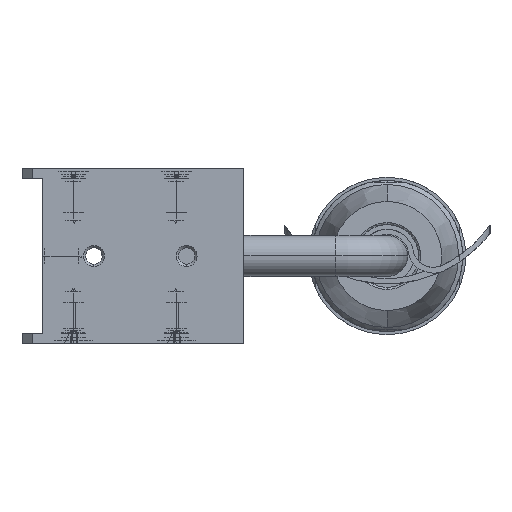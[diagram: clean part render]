
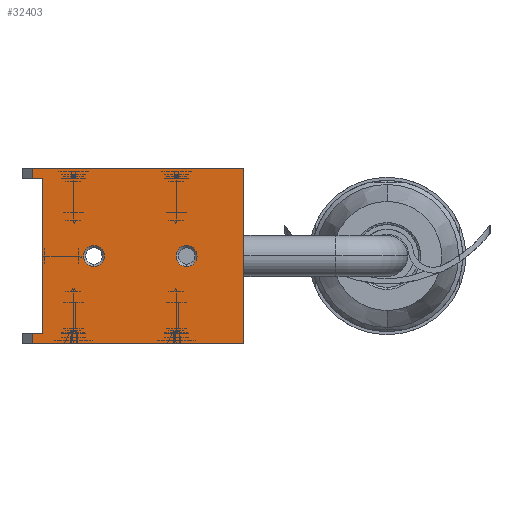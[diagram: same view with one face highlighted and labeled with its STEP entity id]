
A CAD part, left-side view. The second image highlights one B-rep face of the part: STEP entity #32403.
In plain terms, the highlighted planar face has unit normal (-1, 0, 0).
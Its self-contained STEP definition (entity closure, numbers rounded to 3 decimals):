
#1356 = EDGE_CURVE ( 'NONE', #29188, #23982, #38314, .T. ) ;
#1705 = EDGE_CURVE ( 'NONE', #30829, #15665, #51005, .T. ) ;
#1817 = VECTOR ( 'NONE', #45265, 1000. ) ;
#1986 = CARTESIAN_POINT ( 'NONE',  ( -31.064, 4.134, -3.623 ) ) ;
#2128 = DIRECTION ( 'NONE',  ( -1., 0., 0. ) ) ;
#2321 = FACE_BOUND ( 'NONE', #36836, .T. ) ;
#2342 = CARTESIAN_POINT ( 'NONE',  ( -31.064, 19.134, 4.877 ) ) ;
#2713 = VERTEX_POINT ( 'NONE', #50414 ) ;
#2836 = CARTESIAN_POINT ( 'NONE',  ( -31.064, 4.134, -2.598 ) ) ;
#2921 = ORIENTED_EDGE ( 'NONE', *, *, #1705, .T. ) ;
#3943 = VECTOR ( 'NONE', #53203, 1000. ) ;
#7296 = DIRECTION ( 'NONE',  ( 0., 0., -1. ) ) ;
#7387 = DIRECTION ( 'NONE',  ( 0., 0., -1. ) ) ;
#7420 = DIRECTION ( 'NONE',  ( 0., 0., -1. ) ) ;
#7518 = ORIENTED_EDGE ( 'NONE', *, *, #53211, .F. ) ;
#7535 = CARTESIAN_POINT ( 'NONE',  ( -31.064, -1.366, 4.877 ) ) ;
#7923 = VERTEX_POINT ( 'NONE', #12092 ) ;
#9383 = DIRECTION ( 'NONE',  ( 0., 0., -1. ) ) ;
#10544 = PLANE ( 'NONE',  #49090 ) ;
#10741 = LINE ( 'NONE', #14438, #28733 ) ;
#10818 = DIRECTION ( 'NONE',  ( 0., 0., -1. ) ) ;
#11485 = FACE_BOUND ( 'NONE', #19204, .T. ) ;
#11677 = CARTESIAN_POINT ( 'NONE',  ( -31.064, 19.134, 4.877 ) ) ;
#11691 = EDGE_CURVE ( 'NONE', #22031, #26106, #29957, .T. ) ;
#12092 = CARTESIAN_POINT ( 'NONE',  ( -31.064, 18.134, 3.877 ) ) ;
#12915 = CARTESIAN_POINT ( 'NONE',  ( -31.064, 18.634, 3.877 ) ) ;
#13811 = ORIENTED_EDGE ( 'NONE', *, *, #11691, .T. ) ;
#14005 = VERTEX_POINT ( 'NONE', #45643 ) ;
#14438 = CARTESIAN_POINT ( 'NONE',  ( -31.064, 18.134, -11.123 ) ) ;
#15003 = CARTESIAN_POINT ( 'NONE',  ( -31.064, 4.134, -4.648 ) ) ;
#15149 = DIRECTION ( 'NONE',  ( 0., 0., -1. ) ) ;
#15469 = CARTESIAN_POINT ( 'NONE',  ( -31.064, -0.366, -12.123 ) ) ;
#15665 = VERTEX_POINT ( 'NONE', #16997 ) ;
#16997 = CARTESIAN_POINT ( 'NONE',  ( -31.064, 19.134, -12.123 ) ) ;
#18364 = EDGE_CURVE ( 'NONE', #43102, #14005, #55437, .T. ) ;
#18554 = ORIENTED_EDGE ( 'NONE', *, *, #54346, .F. ) ;
#18570 = AXIS2_PLACEMENT_3D ( 'NONE', #1986, #35598, #9383 ) ;
#18573 = CARTESIAN_POINT ( 'NONE',  ( -31.064, 19.134, -11.123 ) ) ;
#18616 = DIRECTION ( 'NONE',  ( 0., 0., 1. ) ) ;
#18894 = ORIENTED_EDGE ( 'NONE', *, *, #18364, .T. ) ;
#18958 = EDGE_LOOP ( 'NONE', ( #30424, #38093, #2921, #27337, #18894, #18554, #13811, #39380 ) ) ;
#19204 = EDGE_LOOP ( 'NONE', ( #44960, #52731 ) ) ;
#19312 = CIRCLE ( 'NONE', #26533, 1.025 ) ;
#19512 = CARTESIAN_POINT ( 'NONE',  ( -31.064, 4.134, -3.623 ) ) ;
#19586 = CARTESIAN_POINT ( 'NONE',  ( -31.064, -0.366, 4.877 ) ) ;
#20825 = VECTOR ( 'NONE', #24709, 1000. ) ;
#22031 = VERTEX_POINT ( 'NONE', #2342 ) ;
#22432 = LINE ( 'NONE', #12915, #53951 ) ;
#23041 = LINE ( 'NONE', #27831, #3943 ) ;
#23637 = CARTESIAN_POINT ( 'NONE',  ( -31.064, 13.134, -2.598 ) ) ;
#23744 = CARTESIAN_POINT ( 'NONE',  ( -31.064, 1.134, -11.123 ) ) ;
#23771 = EDGE_CURVE ( 'NONE', #23982, #29188, #54576, .T. ) ;
#23982 = VERTEX_POINT ( 'NONE', #2836 ) ;
#24709 = DIRECTION ( 'NONE',  ( 0., 0., 1. ) ) ;
#25888 = DIRECTION ( 'NONE',  ( 0., 0., -1. ) ) ;
#26076 = ORIENTED_EDGE ( 'NONE', *, *, #35426, .F. ) ;
#26106 = VERTEX_POINT ( 'NONE', #28529 ) ;
#26533 = AXIS2_PLACEMENT_3D ( 'NONE', #36841, #2128, #15149 ) ;
#26828 = EDGE_CURVE ( 'NONE', #15665, #43102, #54050, .T. ) ;
#27337 = ORIENTED_EDGE ( 'NONE', *, *, #26828, .T. ) ;
#27459 = VECTOR ( 'NONE', #25888, 1000. ) ;
#27831 = CARTESIAN_POINT ( 'NONE',  ( -31.064, 18.634, -11.123 ) ) ;
#28529 = CARTESIAN_POINT ( 'NONE',  ( -31.064, 19.134, 3.877 ) ) ;
#28733 = VECTOR ( 'NONE', #18616, 1000. ) ;
#29188 = VERTEX_POINT ( 'NONE', #15003 ) ;
#29957 = LINE ( 'NONE', #11677, #44632 ) ;
#30127 = CARTESIAN_POINT ( 'NONE',  ( -31.064, 19.134, -12.123 ) ) ;
#30281 = VECTOR ( 'NONE', #45624, 1000. ) ;
#30424 = ORIENTED_EDGE ( 'NONE', *, *, #43082, .F. ) ;
#30829 = VERTEX_POINT ( 'NONE', #18573 ) ;
#31963 = VERTEX_POINT ( 'NONE', #23637 ) ;
#32021 = LINE ( 'NONE', #19586, #1817 ) ;
#32403 = ADVANCED_FACE ( 'NONE', ( #50067, #11485, #2321 ), #10544, .T. ) ;
#32765 = DIRECTION ( 'NONE',  ( -1., 0., 0. ) ) ;
#33272 = AXIS2_PLACEMENT_3D ( 'NONE', #41991, #37454, #7296 ) ;
#34458 = EDGE_CURVE ( 'NONE', #30829, #34575, #23041, .T. ) ;
#34575 = VERTEX_POINT ( 'NONE', #50377 ) ;
#35426 = EDGE_CURVE ( 'NONE', #2713, #31963, #19312, .T. ) ;
#35598 = DIRECTION ( 'NONE',  ( -1., 0., 0. ) ) ;
#36667 = CARTESIAN_POINT ( 'NONE',  ( -31.064, -1.366, -12.123 ) ) ;
#36836 = EDGE_LOOP ( 'NONE', ( #26076, #7518 ) ) ;
#36841 = CARTESIAN_POINT ( 'NONE',  ( -31.064, 13.134, -3.623 ) ) ;
#37397 = EDGE_CURVE ( 'NONE', #26106, #7923, #22432, .T. ) ;
#37454 = DIRECTION ( 'NONE',  ( -1., 0., 0. ) ) ;
#38093 = ORIENTED_EDGE ( 'NONE', *, *, #34458, .F. ) ;
#38314 = CIRCLE ( 'NONE', #49076, 1.025 ) ;
#39380 = ORIENTED_EDGE ( 'NONE', *, *, #37397, .T. ) ;
#40695 = DIRECTION ( 'NONE',  ( -1., 0., 0. ) ) ;
#41991 = CARTESIAN_POINT ( 'NONE',  ( -31.064, 13.134, -3.623 ) ) ;
#43082 = EDGE_CURVE ( 'NONE', #34575, #7923, #10741, .T. ) ;
#43102 = VERTEX_POINT ( 'NONE', #36667 ) ;
#44632 = VECTOR ( 'NONE', #7420, 1000. ) ;
#44960 = ORIENTED_EDGE ( 'NONE', *, *, #1356, .F. ) ;
#45265 = DIRECTION ( 'NONE',  ( 0., -1., 0. ) ) ;
#45624 = DIRECTION ( 'NONE',  ( 0., -1., 0. ) ) ;
#45643 = CARTESIAN_POINT ( 'NONE',  ( -31.064, -1.366, 4.877 ) ) ;
#49076 = AXIS2_PLACEMENT_3D ( 'NONE', #19512, #32765, #7387 ) ;
#49090 = AXIS2_PLACEMENT_3D ( 'NONE', #23744, #40695, #10818 ) ;
#50067 = FACE_OUTER_BOUND ( 'NONE', #18958, .T. ) ;
#50377 = CARTESIAN_POINT ( 'NONE',  ( -31.064, 18.134, -11.123 ) ) ;
#50414 = CARTESIAN_POINT ( 'NONE',  ( -31.064, 13.134, -4.648 ) ) ;
#51005 = LINE ( 'NONE', #30127, #27459 ) ;
#52731 = ORIENTED_EDGE ( 'NONE', *, *, #23771, .F. ) ;
#53203 = DIRECTION ( 'NONE',  ( 0., -1., 0. ) ) ;
#53211 = EDGE_CURVE ( 'NONE', #31963, #2713, #55749, .T. ) ;
#53951 = VECTOR ( 'NONE', #55713, 1000. ) ;
#54050 = LINE ( 'NONE', #15469, #30281 ) ;
#54346 = EDGE_CURVE ( 'NONE', #22031, #14005, #32021, .T. ) ;
#54576 = CIRCLE ( 'NONE', #18570, 1.025 ) ;
#55437 = LINE ( 'NONE', #7535, #20825 ) ;
#55713 = DIRECTION ( 'NONE',  ( 0., -1., 0. ) ) ;
#55749 = CIRCLE ( 'NONE', #33272, 1.025 ) ;
